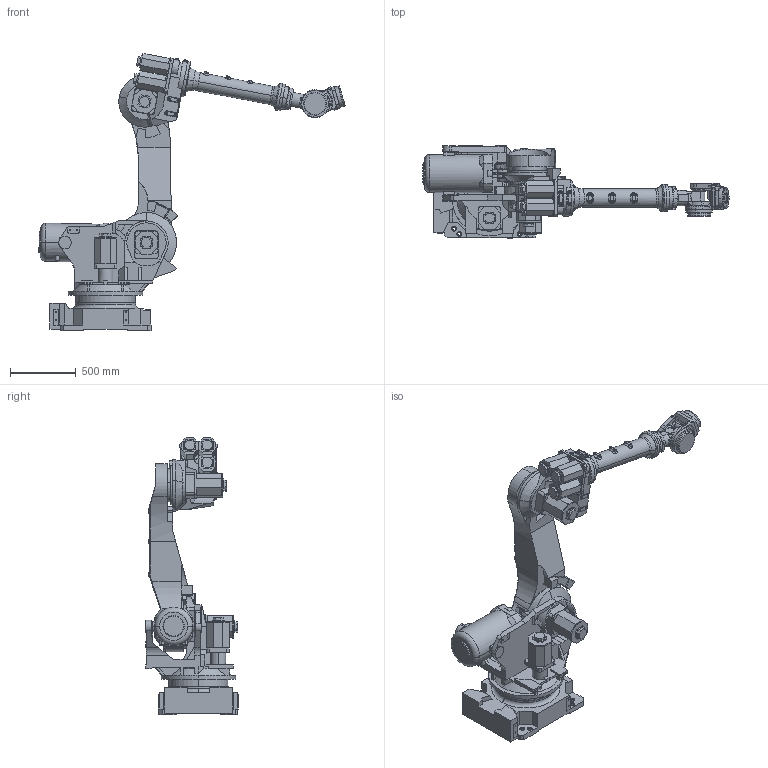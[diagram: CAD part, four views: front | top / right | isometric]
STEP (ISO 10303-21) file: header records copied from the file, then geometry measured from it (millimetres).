
FILE_DESCRIPTION (( 'STEP AP203' ), '1' );
FILE_NAME ('R-2000iB165F.STEP', '2020-08-20T12:54:14', ( '' ), ( '' ), 'SwSTEP 2.0', 'SolidWorks 2018', '' );
FILE_SCHEMA (( 'CONFIG_CONTROL_DESIGN' ));
Length unit declared in the file: millimetre
Products named in the file (10): R-2000iB165F base; R-2000iB165F axis2; R-2000iB165F axis5; R-2000iB165F; R-2000iB165F axis3; R-2000iB165F axis6; R-2000iB165F axis1; R-2000iB165F balancer shaft; R-2000iB165F axis4; R-2000iB165F balancer
Assembly tree (9 placements, depth 2):
  R-2000iB165F
    R-2000iB165F base
    R-2000iB165F axis1
    R-2000iB165F axis2
    R-2000iB165F axis3
    R-2000iB165F axis4
    R-2000iB165F axis5
    R-2000iB165F axis6
    R-2000iB165F balancer
    R-2000iB165F balancer shaft
Bounding box: 2332.27 x 708 x 2110.59 mm (x, y, z)
Volume: 337642362.3 mm3; surface area: 9273843.7 mm2
Topology: 21 solids, 21 shells, 1961 faces, 5056 edges, 3179 vertices
Faces by surface type: plane 1053, cylinder 587, cone 204, torus 74, bspline 37, sphere 6
Entity records: 64197 total; most frequent: CARTESIAN_POINT 15353, DIRECTION 10102, ORIENTED_EDGE 9866, EDGE_CURVE 4933, AXIS2_PLACEMENT_3D 3462, VERTEX_POINT 3179, VECTOR 3178, LINE 3178
